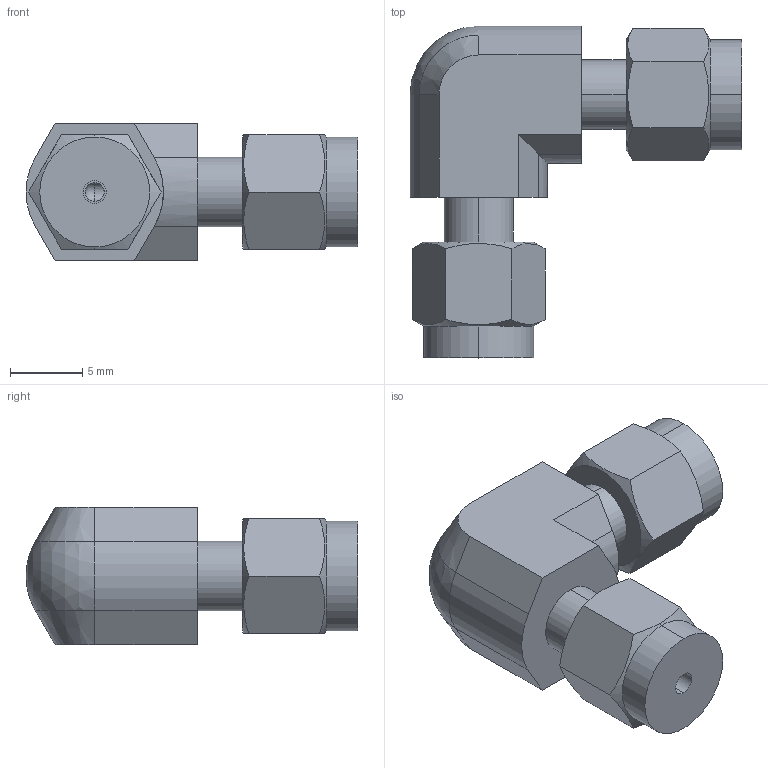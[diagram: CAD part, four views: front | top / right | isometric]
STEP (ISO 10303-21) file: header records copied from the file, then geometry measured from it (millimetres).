
FILE_DESCRIPTION (( 'STEP AP203' ), '1' );
FILE_NAME ('DLA01 SS.STEP', '2009-10-26T06:02:15', ( ' ' ), ( '' ), 'SwSTEP 2.0', 'SolidWorks 2008', '' );
FILE_SCHEMA (( 'CONFIG_CONTROL_DESIGN' ));
Length unit declared in the file: millimetre
Products named in the file (1): DLA01 SS
Bounding box: 22.95 x 22.95 x 9.5 mm (x, y, z)
Volume: 1922.4 mm3; surface area: 1390.2 mm2
Topology: 1 solids, 1 shells, 62 faces, 152 edges, 96 vertices
Faces by surface type: plane 30, cylinder 20, cone 10, sphere 2
Entity records: 1993 total; most frequent: CARTESIAN_POINT 503, ORIENTED_EDGE 296, DIRECTION 284, EDGE_CURVE 148, AXIS2_PLACEMENT_3D 107, VERTEX_POINT 94, EDGE_LOOP 70, VECTOR 70
